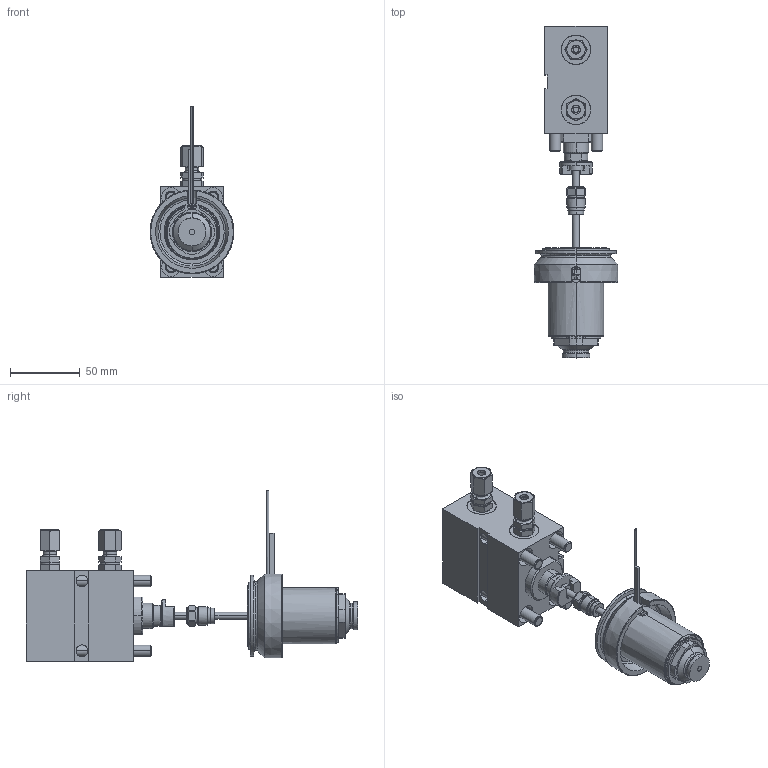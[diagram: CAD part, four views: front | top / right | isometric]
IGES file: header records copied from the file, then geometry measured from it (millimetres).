
Start section: Write IGES format                                    datakit 2008 (c)
Global section: file name: Unknown; native system: DATAKIT Converter; preprocessor: Unknown; author: Unknown; organization: Unknown; date: 950613.180003; units: millimetre
Bounding box: 60 x 237.5 x 122.15 mm (x, y, z)
Surface area: 127487.9 mm2 (no closed solid volume)
Topology: 0 solids, 0 shells, 799 faces, 3612 edges, 3594 vertices
Faces by surface type: revolution 516, bspline 283
